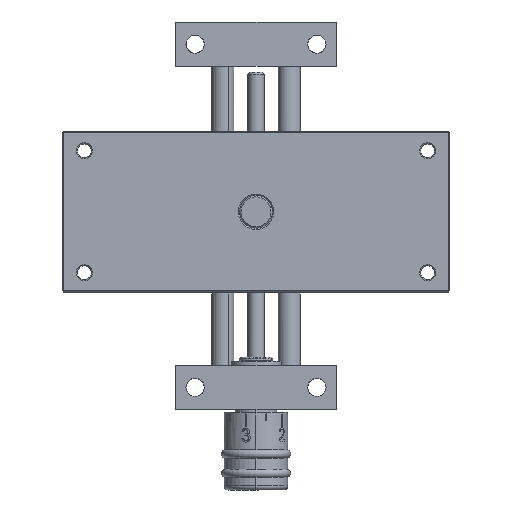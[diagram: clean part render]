
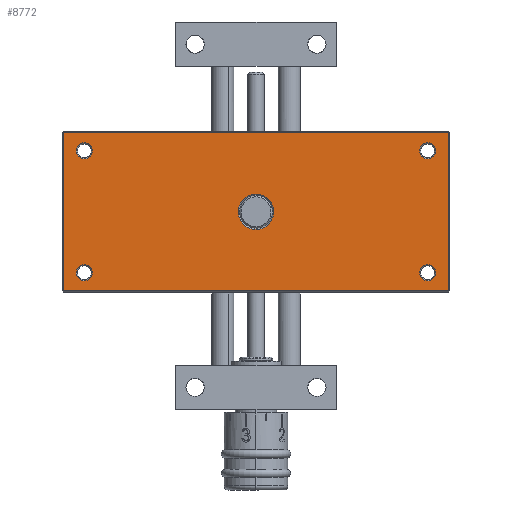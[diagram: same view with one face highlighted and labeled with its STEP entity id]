
A CAD part, front view. The second image highlights one B-rep face of the part: STEP entity #8772.
In plain terms, the highlighted planar face has unit normal (0, -1, 0).
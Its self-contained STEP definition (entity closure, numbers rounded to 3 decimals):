
#198 = VECTOR ( 'NONE', #2291, 1000. ) ;
#710 = CIRCLE ( 'NONE', #14845, 3.2 ) ;
#784 = ORIENTED_EDGE ( 'NONE', *, *, #3919, .T. ) ;
#795 = CARTESIAN_POINT ( 'NONE',  ( 34.8, -4., -14.3 ) ) ;
#1100 = DIRECTION ( 'NONE',  ( 0., 1., 0. ) ) ;
#1368 = EDGE_CURVE ( 'NONE', #16156, #17779, #1680, .T. ) ;
#1550 = VERTEX_POINT ( 'NONE', #795 ) ;
#1649 = CIRCLE ( 'NONE', #6124, 1.45 ) ;
#1680 = LINE ( 'NONE', #16324, #12618 ) ;
#1858 = VERTEX_POINT ( 'NONE', #18419 ) ;
#1980 = CARTESIAN_POINT ( 'NONE',  ( 32.45, -4., 11. ) ) ;
#2189 = FACE_BOUND ( 'NONE', #17348, .T. ) ;
#2291 = DIRECTION ( 'NONE',  ( 1., 0., 0. ) ) ;
#2424 = LINE ( 'NONE', #8964, #6842 ) ;
#2505 = PLANE ( 'NONE',  #15604 ) ;
#2569 = CARTESIAN_POINT ( 'NONE',  ( 35., -4., 14.5 ) ) ;
#2652 = FACE_BOUND ( 'NONE', #10355, .T. ) ;
#2848 = EDGE_CURVE ( 'NONE', #7947, #12492, #18651, .T. ) ;
#3290 = AXIS2_PLACEMENT_3D ( 'NONE', #12706, #3750, #14219 ) ;
#3461 = CARTESIAN_POINT ( 'NONE',  ( -31., -4., 11. ) ) ;
#3750 = DIRECTION ( 'NONE',  ( 0., 1., 0. ) ) ;
#3785 = ORIENTED_EDGE ( 'NONE', *, *, #11083, .T. ) ;
#3919 = EDGE_CURVE ( 'NONE', #7680, #7102, #1649, .T. ) ;
#4257 = DIRECTION ( 'NONE',  ( -1., 0., 0. ) ) ;
#4500 = EDGE_LOOP ( 'NONE', ( #11019, #15945 ) ) ;
#4791 = EDGE_CURVE ( 'NONE', #1858, #10423, #9517, .T. ) ;
#4812 = CARTESIAN_POINT ( 'NONE',  ( 31., -4., -11. ) ) ;
#4947 = DIRECTION ( 'NONE',  ( -1., 0., 0. ) ) ;
#4962 = CIRCLE ( 'NONE', #12913, 1.45 ) ;
#5167 = ORIENTED_EDGE ( 'NONE', *, *, #15116, .T. ) ;
#5368 = CARTESIAN_POINT ( 'NONE',  ( -31., -4., 11. ) ) ;
#5493 = VECTOR ( 'NONE', #4257, 1000. ) ;
#5582 = CARTESIAN_POINT ( 'NONE',  ( 29.55, -4., -11. ) ) ;
#5691 = CARTESIAN_POINT ( 'NONE',  ( -34.8, -4., -14.3 ) ) ;
#5921 = DIRECTION ( 'NONE',  ( 0., 0., 1. ) ) ;
#5955 = LINE ( 'NONE', #13233, #5493 ) ;
#5990 = DIRECTION ( 'NONE',  ( 0., 1., 0. ) ) ;
#6124 = AXIS2_PLACEMENT_3D ( 'NONE', #16528, #7558, #18008 ) ;
#6125 = EDGE_LOOP ( 'NONE', ( #18975, #8467, #16898, #13841 ) ) ;
#6129 = FACE_BOUND ( 'NONE', #16920, .T. ) ;
#6210 = EDGE_CURVE ( 'NONE', #15525, #16156, #5955, .T. ) ;
#6316 = DIRECTION ( 'NONE',  ( -1., 0., 0. ) ) ;
#6394 = CARTESIAN_POINT ( 'NONE',  ( 29.55, -4., 11. ) ) ;
#6430 = CIRCLE ( 'NONE', #14428, 1.45 ) ;
#6497 = DIRECTION ( 'NONE',  ( 0., 1., 0. ) ) ;
#6797 = ORIENTED_EDGE ( 'NONE', *, *, #2848, .T. ) ;
#6842 = VECTOR ( 'NONE', #5921, 1000. ) ;
#6888 = DIRECTION ( 'NONE',  ( -1., 0., 0. ) ) ;
#6935 = AXIS2_PLACEMENT_3D ( 'NONE', #5368, #15862, #6888 ) ;
#7062 = DIRECTION ( 'NONE',  ( -1., 0., 0. ) ) ;
#7102 = VERTEX_POINT ( 'NONE', #13546 ) ;
#7558 = DIRECTION ( 'NONE',  ( 0., 1., 0. ) ) ;
#7569 = DIRECTION ( 'NONE',  ( 0., 1., 0. ) ) ;
#7680 = VERTEX_POINT ( 'NONE', #16071 ) ;
#7947 = VERTEX_POINT ( 'NONE', #11006 ) ;
#8023 = AXIS2_PLACEMENT_3D ( 'NONE', #16537, #7569, #18018 ) ;
#8329 = EDGE_CURVE ( 'NONE', #12492, #7947, #15301, .T. ) ;
#8467 = ORIENTED_EDGE ( 'NONE', *, *, #18597, .T. ) ;
#8717 = CARTESIAN_POINT ( 'NONE',  ( 31., -4., 11. ) ) ;
#8772 = ADVANCED_FACE ( 'NONE', ( #18525, #2652, #6129, #2189, #17608, #13637 ), #2505, .F. ) ;
#8793 = EDGE_CURVE ( 'NONE', #18535, #14800, #9199, .T. ) ;
#8964 = CARTESIAN_POINT ( 'NONE',  ( 34.8, -4., 14.5 ) ) ;
#9199 = CIRCLE ( 'NONE', #16602, 1.45 ) ;
#9266 = AXIS2_PLACEMENT_3D ( 'NONE', #3461, #13924, #4947 ) ;
#9377 = ORIENTED_EDGE ( 'NONE', *, *, #8329, .T. ) ;
#9517 = CIRCLE ( 'NONE', #8023, 3.2 ) ;
#9631 = ORIENTED_EDGE ( 'NONE', *, *, #13317, .T. ) ;
#10037 = CARTESIAN_POINT ( 'NONE',  ( 0., -4., 0. ) ) ;
#10113 = ORIENTED_EDGE ( 'NONE', *, *, #19082, .T. ) ;
#10231 = DIRECTION ( 'NONE',  ( -1., 0., 0. ) ) ;
#10355 = EDGE_LOOP ( 'NONE', ( #9377, #6797 ) ) ;
#10423 = VERTEX_POINT ( 'NONE', #18292 ) ;
#10890 = EDGE_CURVE ( 'NONE', #1550, #15525, #2424, .T. ) ;
#11006 = CARTESIAN_POINT ( 'NONE',  ( -32.45, -4., 11. ) ) ;
#11019 = ORIENTED_EDGE ( 'NONE', *, *, #4791, .T. ) ;
#11083 = EDGE_CURVE ( 'NONE', #7102, #7680, #4962, .T. ) ;
#11531 = DIRECTION ( 'NONE',  ( -1., 0., 0. ) ) ;
#11955 = CIRCLE ( 'NONE', #3290, 1.45 ) ;
#12446 = CARTESIAN_POINT ( 'NONE',  ( -34.8, -4., 14.3 ) ) ;
#12492 = VERTEX_POINT ( 'NONE', #16877 ) ;
#12618 = VECTOR ( 'NONE', #14843, 1000. ) ;
#12706 = CARTESIAN_POINT ( 'NONE',  ( 31., -4., 11. ) ) ;
#12913 = AXIS2_PLACEMENT_3D ( 'NONE', #15498, #6497, #16988 ) ;
#13233 = CARTESIAN_POINT ( 'NONE',  ( 35., -4., 14.3 ) ) ;
#13317 = EDGE_CURVE ( 'NONE', #16628, #18341, #11955, .T. ) ;
#13523 = CARTESIAN_POINT ( 'NONE',  ( 34.8, -4., 14.3 ) ) ;
#13546 = CARTESIAN_POINT ( 'NONE',  ( -29.55, -4., -11. ) ) ;
#13637 = FACE_OUTER_BOUND ( 'NONE', #6125, .T. ) ;
#13841 = ORIENTED_EDGE ( 'NONE', *, *, #6210, .T. ) ;
#13924 = DIRECTION ( 'NONE',  ( 0., 1., 0. ) ) ;
#14219 = DIRECTION ( 'NONE',  ( -1., 0., 0. ) ) ;
#14428 = AXIS2_PLACEMENT_3D ( 'NONE', #4812, #15310, #6316 ) ;
#14569 = ORIENTED_EDGE ( 'NONE', *, *, #8793, .T. ) ;
#14800 = VERTEX_POINT ( 'NONE', #16832 ) ;
#14843 = DIRECTION ( 'NONE',  ( 0., 0., -1. ) ) ;
#14845 = AXIS2_PLACEMENT_3D ( 'NONE', #10037, #1100, #11531 ) ;
#14991 = CARTESIAN_POINT ( 'NONE',  ( 31., -4., -11. ) ) ;
#15024 = EDGE_CURVE ( 'NONE', #10423, #1858, #710, .T. ) ;
#15116 = EDGE_CURVE ( 'NONE', #18341, #16628, #16586, .T. ) ;
#15301 = CIRCLE ( 'NONE', #6935, 1.45 ) ;
#15310 = DIRECTION ( 'NONE',  ( 0., 1., 0. ) ) ;
#15498 = CARTESIAN_POINT ( 'NONE',  ( -31., -4., -11. ) ) ;
#15525 = VERTEX_POINT ( 'NONE', #13523 ) ;
#15604 = AXIS2_PLACEMENT_3D ( 'NONE', #2569, #16047, #7062 ) ;
#15862 = DIRECTION ( 'NONE',  ( 0., 1., 0. ) ) ;
#15945 = ORIENTED_EDGE ( 'NONE', *, *, #15024, .T. ) ;
#16047 = DIRECTION ( 'NONE',  ( 0., 1., 0. ) ) ;
#16071 = CARTESIAN_POINT ( 'NONE',  ( -32.45, -4., -11. ) ) ;
#16078 = LINE ( 'NONE', #19116, #198 ) ;
#16156 = VERTEX_POINT ( 'NONE', #12446 ) ;
#16324 = CARTESIAN_POINT ( 'NONE',  ( -34.8, -4., 14.5 ) ) ;
#16482 = DIRECTION ( 'NONE',  ( -1., 0., 0. ) ) ;
#16528 = CARTESIAN_POINT ( 'NONE',  ( -31., -4., -11. ) ) ;
#16537 = CARTESIAN_POINT ( 'NONE',  ( 0., -4., 0. ) ) ;
#16586 = CIRCLE ( 'NONE', #16831, 1.45 ) ;
#16602 = AXIS2_PLACEMENT_3D ( 'NONE', #14991, #5990, #16482 ) ;
#16628 = VERTEX_POINT ( 'NONE', #6394 ) ;
#16831 = AXIS2_PLACEMENT_3D ( 'NONE', #8717, #19144, #10231 ) ;
#16832 = CARTESIAN_POINT ( 'NONE',  ( 32.45, -4., -11. ) ) ;
#16877 = CARTESIAN_POINT ( 'NONE',  ( -29.55, -4., 11. ) ) ;
#16898 = ORIENTED_EDGE ( 'NONE', *, *, #10890, .T. ) ;
#16902 = EDGE_LOOP ( 'NONE', ( #10113, #14569 ) ) ;
#16920 = EDGE_LOOP ( 'NONE', ( #3785, #784 ) ) ;
#16988 = DIRECTION ( 'NONE',  ( -1., 0., 0. ) ) ;
#17348 = EDGE_LOOP ( 'NONE', ( #5167, #9631 ) ) ;
#17608 = FACE_BOUND ( 'NONE', #16902, .T. ) ;
#17779 = VERTEX_POINT ( 'NONE', #5691 ) ;
#18008 = DIRECTION ( 'NONE',  ( -1., 0., 0. ) ) ;
#18018 = DIRECTION ( 'NONE',  ( -1., 0., 0. ) ) ;
#18292 = CARTESIAN_POINT ( 'NONE',  ( -3.2, -4., 0. ) ) ;
#18341 = VERTEX_POINT ( 'NONE', #1980 ) ;
#18419 = CARTESIAN_POINT ( 'NONE',  ( 3.2, -4., 0. ) ) ;
#18525 = FACE_BOUND ( 'NONE', #4500, .T. ) ;
#18535 = VERTEX_POINT ( 'NONE', #5582 ) ;
#18597 = EDGE_CURVE ( 'NONE', #17779, #1550, #16078, .T. ) ;
#18651 = CIRCLE ( 'NONE', #9266, 1.45 ) ;
#18975 = ORIENTED_EDGE ( 'NONE', *, *, #1368, .T. ) ;
#19082 = EDGE_CURVE ( 'NONE', #14800, #18535, #6430, .T. ) ;
#19116 = CARTESIAN_POINT ( 'NONE',  ( 35., -4., -14.3 ) ) ;
#19144 = DIRECTION ( 'NONE',  ( 0., 1., 0. ) ) ;
